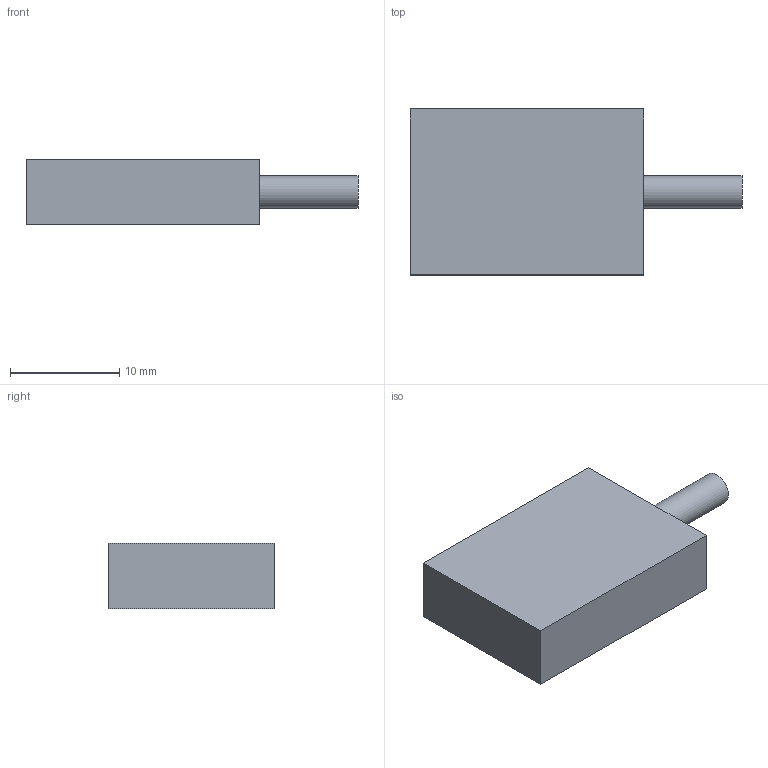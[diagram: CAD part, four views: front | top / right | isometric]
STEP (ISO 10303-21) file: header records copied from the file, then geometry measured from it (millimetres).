
FILE_DESCRIPTION(('Open CASCADE Model'),'2;1');
FILE_NAME('AGFRC_C1p5CLS_PRO_linear_servo','2026-09-04T00:01:42',( 'Author'),('Open CASCADE'),'Open CASCADE STEP processor 7.9', 'build123d','Unknown');
FILE_SCHEMA(('AUTOMOTIVE_DESIGN { 1 0 10303 214 1 1 1 1 }'));
Length unit declared in the file: millimetre
Products named in the file (4): AGFRC_C1p5CLS_PRO_linear_servo; body_ENVELOPE; pushrod_ASSUMED; stroke_keepout_9mm_ASSUMED
Assembly tree (3 placements, depth 2):
  AGFRC_C1p5CLS_PRO_linear_servo
    body_ENVELOPE
    pushrod_ASSUMED
    stroke_keepout_9mm_ASSUMED
Bounding box: 30.4 x 15.2 x 6 mm (x, y, z)
Volume: 2023.2 mm3; surface area: 1213.5 mm2
Topology: 3 solids, 3 shells, 12 faces, 18 edges, 12 vertices
Faces by surface type: plane 10, cylinder 2
Full cylindrical faces by diameter (mm): 1.5 x1, 3 x1
Entity records: 326 total; most frequent: DIRECTION 54, CARTESIAN_POINT 46, ORIENTED_EDGE 36, AXIS2_PLACEMENT_3D 20, EDGE_CURVE 18, LINE 14, VECTOR 14, ADVANCED_FACE 12
